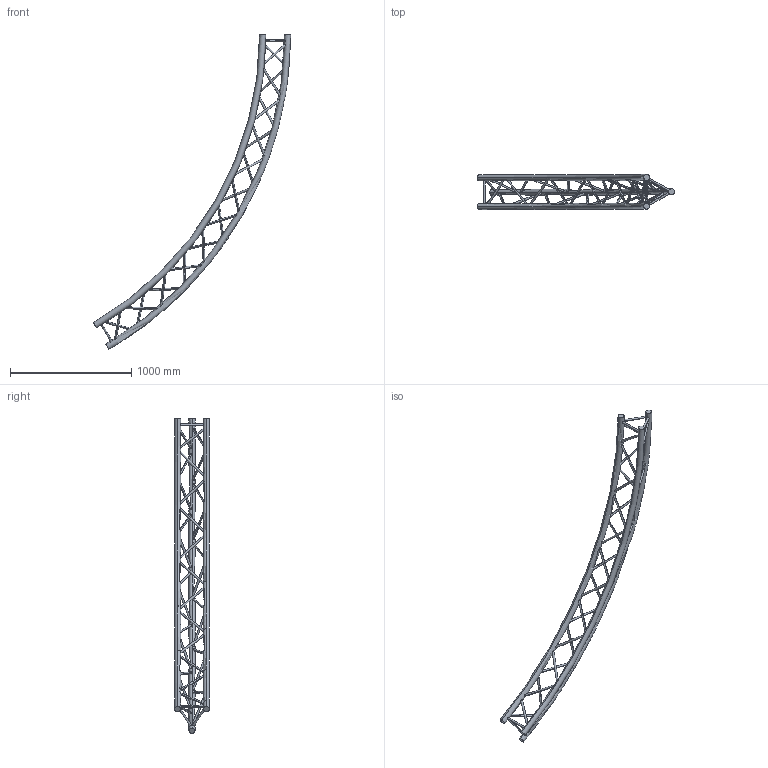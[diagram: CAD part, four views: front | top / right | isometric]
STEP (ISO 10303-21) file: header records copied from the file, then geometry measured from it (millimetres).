
FILE_DESCRIPTION (( 'STEP AP203' ), '1' );
FILE_NAME ('SXC29600PE.STEP', '2009-10-21T09:30:35', ( 'CEDIA' ), ( 'CEDIA INDUSTRIE' ), 'SwSTEP 2.0', 'SolidWorks 2009', '' );
FILE_SCHEMA (( 'CONFIG_CONTROL_DESIGN' ));
Length unit declared in the file: millimetre
Products named in the file (1): SXC29600PE
Bounding box: 1627.62 x 287 x 2598.08 mm (x, y, z)
Volume: 19637157.9 mm3; surface area: 1923469.1 mm2
Topology: 1 solids, 1 shells, 96 faces, 270 edges, 180 vertices
Faces by surface type: cylinder 84, torus 6, plane 6
Entity records: 10753 total; most frequent: CARTESIAN_POINT 8347, ORIENTED_EDGE 540, DIRECTION 314, EDGE_CURVE 270, VERTEX_POINT 180, EDGE_LOOP 180, B_SPLINE_CURVE_WITH_KNOTS 168, AXIS2_PLACEMENT_3D 115
